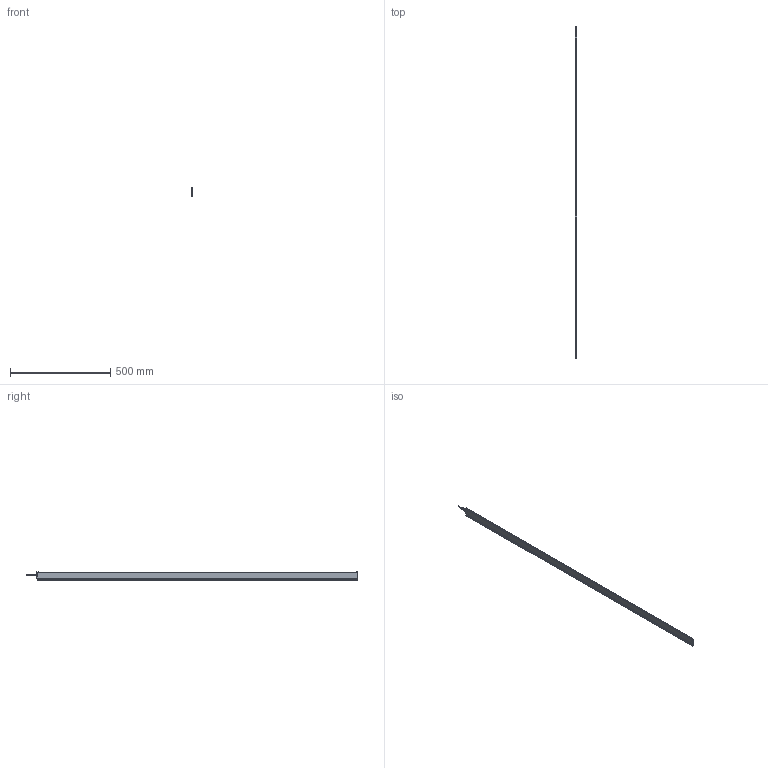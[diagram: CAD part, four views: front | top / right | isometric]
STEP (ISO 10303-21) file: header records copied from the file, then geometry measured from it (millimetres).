
FILE_DESCRIPTION (( 'STEP AP214' ), '1' );
FILE_NAME ('ILG-L-K2-1600mm.STEP', '2017-07-11T08:26:17', ( '' ), ( '' ), 'SwSTEP 2.0', 'SolidWorks 2016', '' );
FILE_SCHEMA (( 'AUTOMOTIVE_DESIGN' ));
Length unit declared in the file: millimetre
Products named in the file (1): ILG-L-K2-1600mm
Bounding box: 9 x 1654.5 x 40.71 mm (x, y, z)
Surface area: 317098.9 mm2 (no closed solid volume)
Topology: 0 solids, 13 shells, 679 faces, 1780 edges, 1131 vertices
Faces by surface type: cylinder 286, plane 255, cone 90, bspline 32, torus 16
Entity records: 30532 total; most frequent: CARTESIAN_POINT 6477, ORIENTED_EDGE 3513, DIRECTION 3392, EDGE_CURVE 1764, AXIS2_PLACEMENT_3D 1295, VERTEX_POINT 1131, VECTOR 802, LINE 802
